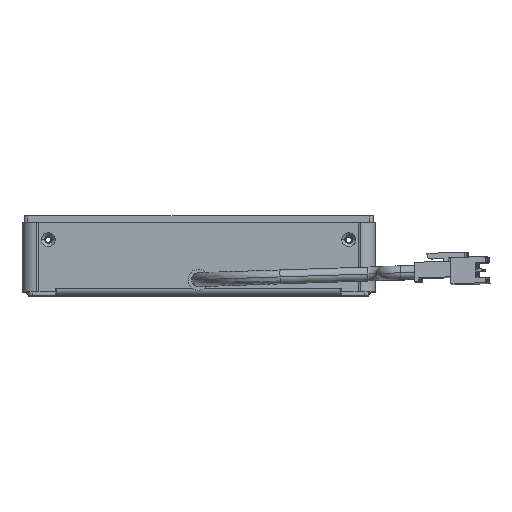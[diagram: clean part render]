
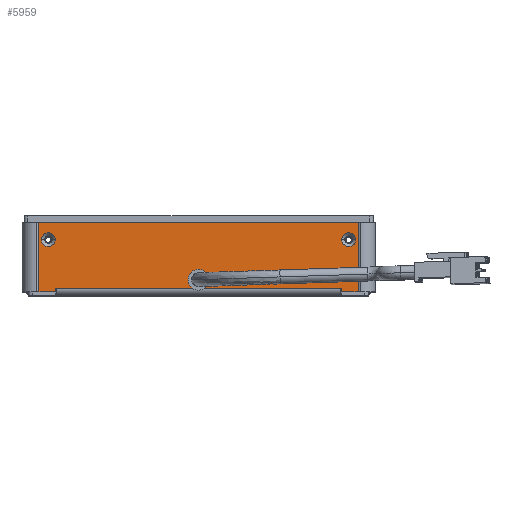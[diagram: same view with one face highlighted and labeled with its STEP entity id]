
A CAD part, top view. The second image highlights one B-rep face of the part: STEP entity #5959.
In plain terms, the highlighted planar face has unit normal (0, 0, 1).
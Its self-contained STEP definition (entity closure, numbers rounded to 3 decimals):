
#298 = DIRECTION ( 'NONE',  ( 0., 0., 1. ) ) ;
#469 = ORIENTED_EDGE ( 'NONE', *, *, #1511, .F. ) ;
#545 = DIRECTION ( 'NONE',  ( 0., 1., 0. ) ) ;
#630 = CIRCLE ( 'NONE', #16914, 2.1 ) ;
#696 = EDGE_CURVE ( 'NONE', #14313, #8965, #6012, .T. ) ;
#1039 = CARTESIAN_POINT ( 'NONE',  ( 0., 0., 0. ) ) ;
#1228 = EDGE_LOOP ( 'NONE', ( #4759, #3582 ) ) ;
#1487 = CARTESIAN_POINT ( 'NONE',  ( 8.8, 0., 0. ) ) ;
#1511 = EDGE_CURVE ( 'NONE', #4628, #12062, #3846, .T. ) ;
#1597 = ORIENTED_EDGE ( 'NONE', *, *, #696, .F. ) ;
#1712 = CARTESIAN_POINT ( 'NONE',  ( 2.5, 0., 0. ) ) ;
#1731 = DIRECTION ( 'NONE',  ( -1., 0., 0. ) ) ;
#1790 = EDGE_CURVE ( 'NONE', #5318, #11190, #3821, .T. ) ;
#1806 = CARTESIAN_POINT ( 'NONE',  ( 9., 1., 0. ) ) ;
#2045 = VECTOR ( 'NONE', #1731, 1000. ) ;
#2239 = DIRECTION ( 'NONE',  ( 1., 0., 0. ) ) ;
#2319 = EDGE_CURVE ( 'NONE', #3293, #14428, #10804, .T. ) ;
#2341 = EDGE_CURVE ( 'NONE', #16532, #4867, #7989, .T. ) ;
#2659 = EDGE_CURVE ( 'NONE', #11073, #14313, #12036, .T. ) ;
#2849 = LINE ( 'NONE', #8207, #16429 ) ;
#3035 = ORIENTED_EDGE ( 'NONE', *, *, #2341, .T. ) ;
#3150 = ORIENTED_EDGE ( 'NONE', *, *, #3334, .T. ) ;
#3231 = VECTOR ( 'NONE', #8231, 1000. ) ;
#3281 = CARTESIAN_POINT ( 'NONE',  ( 90.5, 1., 0. ) ) ;
#3293 = VERTEX_POINT ( 'NONE', #17046 ) ;
#3334 = EDGE_CURVE ( 'NONE', #11073, #11190, #14006, .T. ) ;
#3582 = ORIENTED_EDGE ( 'NONE', *, *, #15126, .F. ) ;
#3821 = LINE ( 'NONE', #10414, #12148 ) ;
#3846 = CIRCLE ( 'NONE', #12978, 2. ) ;
#4164 = EDGE_CURVE ( 'NONE', #15753, #5318, #13582, .T. ) ;
#4181 = DIRECTION ( 'NONE',  ( 1., 0., 0. ) ) ;
#4328 = VECTOR ( 'NONE', #2239, 1000. ) ;
#4343 = CARTESIAN_POINT ( 'NONE',  ( 94.8, 15., 0. ) ) ;
#4400 = VECTOR ( 'NONE', #13947, 1000. ) ;
#4443 = CARTESIAN_POINT ( 'NONE',  ( 8.8, 1., 0. ) ) ;
#4490 = CARTESIAN_POINT ( 'NONE',  ( 90.8, 15., 0. ) ) ;
#4559 = EDGE_CURVE ( 'NONE', #4666, #4867, #2849, .T. ) ;
#4588 = CARTESIAN_POINT ( 'NONE',  ( 47.65, 3.5, 0. ) ) ;
#4628 = VERTEX_POINT ( 'NONE', #4490 ) ;
#4666 = VERTEX_POINT ( 'NONE', #1712 ) ;
#4759 = ORIENTED_EDGE ( 'NONE', *, *, #2319, .F. ) ;
#4867 = VERTEX_POINT ( 'NONE', #11910 ) ;
#4904 = AXIS2_PLACEMENT_3D ( 'NONE', #9941, #16457, #8504 ) ;
#5054 = CARTESIAN_POINT ( 'NONE',  ( 8.7, 15., 0. ) ) ;
#5137 = DIRECTION ( 'NONE',  ( 0., 1., 0. ) ) ;
#5318 = VERTEX_POINT ( 'NONE', #15708 ) ;
#5335 = EDGE_CURVE ( 'NONE', #15753, #16532, #8418, .T. ) ;
#5908 = LINE ( 'NONE', #9524, #6986 ) ;
#5959 = ADVANCED_FACE ( 'NONE', ( #12789, #11487, #16763, #7602 ), #12867, .F. ) ;
#6012 = LINE ( 'NONE', #11018, #4400 ) ;
#6273 = ORIENTED_EDGE ( 'NONE', *, *, #5335, .T. ) ;
#6314 = DIRECTION ( 'NONE',  ( 0., 0., -1. ) ) ;
#6593 = CARTESIAN_POINT ( 'NONE',  ( 90.7, 1., 0. ) ) ;
#6869 = CARTESIAN_POINT ( 'NONE',  ( 49.75, 3.5, 0. ) ) ;
#6897 = CARTESIAN_POINT ( 'NONE',  ( 8.8, 0., 0. ) ) ;
#6986 = VECTOR ( 'NONE', #545, 1000. ) ;
#7053 = CARTESIAN_POINT ( 'NONE',  ( 97., 20., 0. ) ) ;
#7589 = VERTEX_POINT ( 'NONE', #5054 ) ;
#7602 = FACE_BOUND ( 'NONE', #16743, .T. ) ;
#7762 = EDGE_CURVE ( 'NONE', #12062, #4628, #11646, .T. ) ;
#7989 = LINE ( 'NONE', #10675, #12408 ) ;
#8010 = EDGE_CURVE ( 'NONE', #10168, #4666, #15864, .T. ) ;
#8207 = CARTESIAN_POINT ( 'NONE',  ( 2.5, 0., 0. ) ) ;
#8231 = DIRECTION ( 'NONE',  ( 0., 1., 0. ) ) ;
#8265 = EDGE_CURVE ( 'NONE', #10168, #8965, #5908, .T. ) ;
#8316 = AXIS2_PLACEMENT_3D ( 'NONE', #13940, #14479, #4181 ) ;
#8342 = VECTOR ( 'NONE', #15769, 1000. ) ;
#8418 = LINE ( 'NONE', #10075, #3231 ) ;
#8423 = ORIENTED_EDGE ( 'NONE', *, *, #8010, .F. ) ;
#8504 = DIRECTION ( 'NONE',  ( 1., 0., 0. ) ) ;
#8965 = VERTEX_POINT ( 'NONE', #4443 ) ;
#8985 = ORIENTED_EDGE ( 'NONE', *, *, #2659, .F. ) ;
#9112 = ORIENTED_EDGE ( 'NONE', *, *, #11640, .F. ) ;
#9180 = DIRECTION ( 'NONE',  ( -1., 0., 0. ) ) ;
#9310 = DIRECTION ( 'NONE',  ( 1., 0., 0. ) ) ;
#9348 = CARTESIAN_POINT ( 'NONE',  ( 90.7, 0., 0. ) ) ;
#9391 = DIRECTION ( 'NONE',  ( -1., 0., 0. ) ) ;
#9524 = CARTESIAN_POINT ( 'NONE',  ( 8.8, 0., 0. ) ) ;
#9941 = CARTESIAN_POINT ( 'NONE',  ( 6.7, 15., 0. ) ) ;
#10075 = CARTESIAN_POINT ( 'NONE',  ( 97., 0., 0. ) ) ;
#10114 = CARTESIAN_POINT ( 'NONE',  ( 90.5, 1., 0. ) ) ;
#10168 = VERTEX_POINT ( 'NONE', #6897 ) ;
#10317 = DIRECTION ( 'NONE',  ( 1., 0., 0. ) ) ;
#10412 = ORIENTED_EDGE ( 'NONE', *, *, #4559, .F. ) ;
#10414 = CARTESIAN_POINT ( 'NONE',  ( 90.7, 0., 0. ) ) ;
#10675 = CARTESIAN_POINT ( 'NONE',  ( 0., 20., 0. ) ) ;
#10737 = ORIENTED_EDGE ( 'NONE', *, *, #1790, .F. ) ;
#10804 = CIRCLE ( 'NONE', #8316, 2.1 ) ;
#10852 = DIRECTION ( 'NONE',  ( 1., 0., 0. ) ) ;
#10943 = AXIS2_PLACEMENT_3D ( 'NONE', #1039, #6314, #9391 ) ;
#10945 = VECTOR ( 'NONE', #9180, 1000. ) ;
#11018 = CARTESIAN_POINT ( 'NONE',  ( 0., 1., 0. ) ) ;
#11073 = VERTEX_POINT ( 'NONE', #3281 ) ;
#11155 = CARTESIAN_POINT ( 'NONE',  ( 4.7, 15., 0. ) ) ;
#11190 = VERTEX_POINT ( 'NONE', #6593 ) ;
#11487 = FACE_BOUND ( 'NONE', #1228, .T. ) ;
#11640 = EDGE_CURVE ( 'NONE', #14509, #7589, #14285, .T. ) ;
#11646 = CIRCLE ( 'NONE', #13025, 2. ) ;
#11841 = ORIENTED_EDGE ( 'NONE', *, *, #8265, .T. ) ;
#11910 = CARTESIAN_POINT ( 'NONE',  ( 2.5, 20., 0. ) ) ;
#12036 = LINE ( 'NONE', #14634, #10945 ) ;
#12062 = VERTEX_POINT ( 'NONE', #4343 ) ;
#12129 = DIRECTION ( 'NONE',  ( 0., 0., 1. ) ) ;
#12148 = VECTOR ( 'NONE', #5137, 1000. ) ;
#12175 = EDGE_CURVE ( 'NONE', #7589, #14509, #14573, .T. ) ;
#12180 = DIRECTION ( 'NONE',  ( 0., 1., 0. ) ) ;
#12408 = VECTOR ( 'NONE', #15964, 1000. ) ;
#12462 = ORIENTED_EDGE ( 'NONE', *, *, #4164, .F. ) ;
#12789 = FACE_OUTER_BOUND ( 'NONE', #15972, .T. ) ;
#12867 = PLANE ( 'NONE',  #10943 ) ;
#12978 = AXIS2_PLACEMENT_3D ( 'NONE', #15437, #14224, #16733 ) ;
#13025 = AXIS2_PLACEMENT_3D ( 'NONE', #13437, #298, #10852 ) ;
#13437 = CARTESIAN_POINT ( 'NONE',  ( 92.8, 15., 0. ) ) ;
#13582 = LINE ( 'NONE', #9348, #2045 ) ;
#13940 = CARTESIAN_POINT ( 'NONE',  ( 49.75, 3.5, 0. ) ) ;
#13947 = DIRECTION ( 'NONE',  ( -1., 0., 0. ) ) ;
#14006 = LINE ( 'NONE', #10114, #4328 ) ;
#14224 = DIRECTION ( 'NONE',  ( 0., 0., 1. ) ) ;
#14285 = CIRCLE ( 'NONE', #15121, 2. ) ;
#14313 = VERTEX_POINT ( 'NONE', #1806 ) ;
#14428 = VERTEX_POINT ( 'NONE', #4588 ) ;
#14479 = DIRECTION ( 'NONE',  ( 0., 0., 1. ) ) ;
#14509 = VERTEX_POINT ( 'NONE', #11155 ) ;
#14573 = CIRCLE ( 'NONE', #4904, 2. ) ;
#14634 = CARTESIAN_POINT ( 'NONE',  ( 0., 1., 0. ) ) ;
#14687 = ORIENTED_EDGE ( 'NONE', *, *, #7762, .F. ) ;
#15121 = AXIS2_PLACEMENT_3D ( 'NONE', #16300, #16388, #9310 ) ;
#15126 = EDGE_CURVE ( 'NONE', #14428, #3293, #630, .T. ) ;
#15437 = CARTESIAN_POINT ( 'NONE',  ( 92.8, 15., 0. ) ) ;
#15708 = CARTESIAN_POINT ( 'NONE',  ( 90.7, 0., 0. ) ) ;
#15753 = VERTEX_POINT ( 'NONE', #16858 ) ;
#15769 = DIRECTION ( 'NONE',  ( -1., 0., 0. ) ) ;
#15864 = LINE ( 'NONE', #1487, #8342 ) ;
#15964 = DIRECTION ( 'NONE',  ( -1., 0., 0. ) ) ;
#15972 = EDGE_LOOP ( 'NONE', ( #3035, #10412, #8423, #11841, #1597, #8985, #3150, #10737, #12462, #6273 ) ) ;
#16181 = ORIENTED_EDGE ( 'NONE', *, *, #12175, .F. ) ;
#16300 = CARTESIAN_POINT ( 'NONE',  ( 6.7, 15., 0. ) ) ;
#16388 = DIRECTION ( 'NONE',  ( 0., 0., 1. ) ) ;
#16429 = VECTOR ( 'NONE', #12180, 1000. ) ;
#16457 = DIRECTION ( 'NONE',  ( 0., 0., 1. ) ) ;
#16482 = EDGE_LOOP ( 'NONE', ( #14687, #469 ) ) ;
#16532 = VERTEX_POINT ( 'NONE', #7053 ) ;
#16733 = DIRECTION ( 'NONE',  ( 1., 0., 0. ) ) ;
#16743 = EDGE_LOOP ( 'NONE', ( #16181, #9112 ) ) ;
#16763 = FACE_BOUND ( 'NONE', #16482, .T. ) ;
#16858 = CARTESIAN_POINT ( 'NONE',  ( 97., 0., 0. ) ) ;
#16914 = AXIS2_PLACEMENT_3D ( 'NONE', #6869, #12129, #10317 ) ;
#17046 = CARTESIAN_POINT ( 'NONE',  ( 51.85, 3.5, 0. ) ) ;
